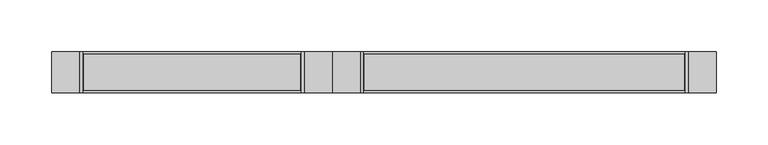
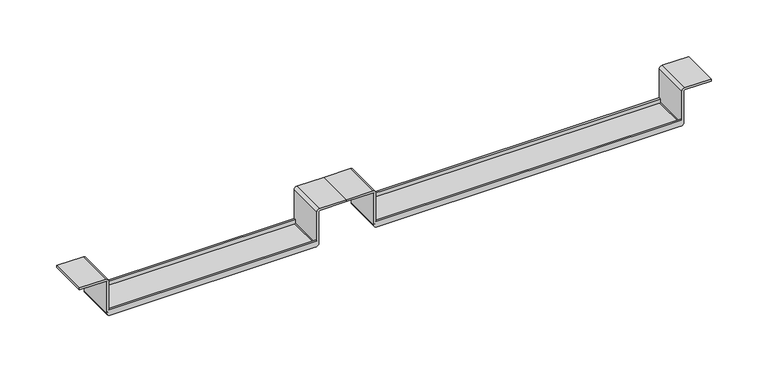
"""IFC4 building model written with IfcOpenShell, lengths in millimetres: proxy geometry, Cable_Tray_Support_SV_Basorsupport : Basorsupport SV 500."""

from ifc_helpers import new_model, si_unit, frame, origin, place, context, project, spatial, polyline, circle_curve, source, transform, mapped, element, save
from ifc_brep_helpers import plane_surface, cylinder_surface, revolved_surface, advanced_brep


def generic_models_282451d4(model_context):
    return source(origin(), model_context, "Body", "AdvancedBrep", [
        advanced_brep(
        [(-80.0, -18.0, 6.0), (-292.0, -18.0, 6.0), (-292.0, -20.0, 6.0), (-80.0, -20.0, 6.0), (-80.0, 20.0, 6.0), (-292.0, 20.0, 6.0), (-292.0, 18.0, 6.0), (-80.0, 18.0, 6.0), (-80.0, -18.0, 3.0), (-81.0, -18.0, 2.0), (-291.0, -18.0, 2.0), (-292.0, -18.0, 3.0), (-292.0, -20.0, 37.0), (-295.0, -20.0, 40.0), (-322.0, -20.0, 40.0), (-322.0, -20.0, 38.0), (-295.0, -20.0, 38.0), (-294.0, -20.0, 37.0), (-294.0, -20.0, 3.0), (-293.9672045, -20.0, 2.5576232), (-291.0, -20.0, 0.0), (-81.0, -20.0, 0.0), (-78.0, -20.0, 3.0), (-78.0, -20.0, 37.0), (-77.0, -20.0, 38.0), (-50.0, -20.0, 38.0), (-50.0, -20.0, 40.0), (-77.0, -20.0, 40.0), (-80.0, -20.0, 37.0), (-80.0, 20.0, 37.0), (-77.0, 20.0, 40.0), (-50.0, 20.0, 40.0), (-50.0, 20.0, 38.0), (-77.0, 20.0, 38.0), (-78.0, 20.0, 37.0), (-78.0, 20.0, 3.0), (-81.0, 20.0, 0.0), (-291.0, 20.0, 0.0), (-293.9672045, 20.0, 2.5576232), (-294.0, 20.0, 3.0), (-294.0, 20.0, 37.0), (-295.0, 20.0, 38.0), (-322.0, 20.0, 38.0), (-322.0, 20.0, 40.0), (-295.0, 20.0, 40.0), (-292.0, 20.0, 37.0), (-292.0, 18.0, 3.0), (-291.0, 18.0, 2.0), (-81.0, 18.0, 2.0), (-80.0, 18.0, 3.0)],
        [
            (0, 1),
            (1, 2),
            (2, 3),
            (3, 0),
            (4, 5),
            (5, 6),
            (6, 7),
            (7, 4),
            (0, 8),
            (8, 9, circle_curve(frame((-81.0, -18.0, 3.0), z_axis=(0.0, 1.0, 0.0), x_axis=(1.0, 0.0, 0.0)), 1.0)),
            (9, 10),
            (10, 11, circle_curve(frame((-291.0, -18.0, 3.0), z_axis=(0.0, 1.0, 0.0), x_axis=(1.0, 0.0, 0.0)), 1.0)),
            (11, 1),
            (2, 12),
            (12, 13, circle_curve(frame((-295.0, -20.0, 37.0), z_axis=(0.0, -1.0, 0.0), x_axis=(1.0, 0.0, 0.0)), 3.0)),
            (13, 14),
            (14, 15),
            (15, 16),
            (16, 17, circle_curve(frame((-295.0, -20.0, 37.0), z_axis=(0.0, 1.0, 0.0), x_axis=(1.0, 0.0, 0.0)), 1.0)),
            (17, 18),
            (18, 19, circle_curve(frame((-291.0, -20.0, 3.0), z_axis=(0.0, -1.0, 0.0), x_axis=(1.0, 0.0, 0.0)), 3.0)),
            (19, 20, circle_curve(frame((-291.0, -20.0, 3.0), z_axis=(0.0, -1.0, 0.0), x_axis=(1.0, 0.0, 0.0)), 3.0)),
            (20, 21),
            (21, 22, circle_curve(frame((-81.0, -20.0, 3.0), z_axis=(0.0, -1.0, 0.0), x_axis=(1.0, 0.0, 0.0)), 3.0)),
            (22, 23),
            (23, 24, circle_curve(frame((-77.0, -20.0, 37.0), z_axis=(0.0, 1.0, 0.0), x_axis=(1.0, 0.0, 0.0)), 1.0)),
            (24, 25),
            (25, 26),
            (26, 27),
            (27, 28, circle_curve(frame((-77.0, -20.0, 37.0), z_axis=(0.0, -1.0, 0.0), x_axis=(1.0, 0.0, 0.0)), 3.0)),
            (28, 3),
            (4, 29),
            (29, 30, circle_curve(frame((-77.0, 20.0, 37.0), z_axis=(0.0, 1.0, 0.0), x_axis=(1.0, 0.0, 0.0)), 3.0)),
            (30, 31),
            (31, 32),
            (32, 33),
            (33, 34, circle_curve(frame((-77.0, 20.0, 37.0), z_axis=(0.0, -1.0, 0.0), x_axis=(1.0, 0.0, 0.0)), 1.0)),
            (34, 35),
            (35, 36, circle_curve(frame((-81.0, 20.0, 3.0), z_axis=(0.0, 1.0, 0.0), x_axis=(1.0, 0.0, 0.0)), 3.0)),
            (36, 37),
            (37, 38, circle_curve(frame((-291.0, 20.0, 3.0), z_axis=(0.0, 1.0, 0.0), x_axis=(1.0, 0.0, 0.0)), 3.0)),
            (38, 39, circle_curve(frame((-291.0, 20.0, 3.0), z_axis=(0.0, 1.0, 0.0), x_axis=(1.0, 0.0, 0.0)), 3.0)),
            (39, 40),
            (40, 41, circle_curve(frame((-295.0, 20.0, 37.0), z_axis=(0.0, -1.0, 0.0), x_axis=(1.0, 0.0, 0.0)), 1.0)),
            (41, 42),
            (42, 43),
            (43, 44),
            (44, 45, circle_curve(frame((-295.0, 20.0, 37.0), z_axis=(0.0, 1.0, 0.0), x_axis=(1.0, 0.0, 0.0)), 3.0)),
            (45, 5),
            (6, 46),
            (46, 47, circle_curve(frame((-291.0, 18.0, 3.0), z_axis=(0.0, -1.0, 0.0), x_axis=(1.0, 0.0, 0.0)), 1.0)),
            (47, 48),
            (48, 49, circle_curve(frame((-81.0, 18.0, 3.0), z_axis=(0.0, -1.0, 0.0), x_axis=(1.0, 0.0, 0.0)), 1.0)),
            (49, 7),
            (9, 48),
            (47, 10),
            (28, 29),
            (49, 8),
            (26, 31),
            (30, 27),
            (25, 32),
            (24, 33),
            (22, 35),
            (34, 23),
            (20, 37),
            (36, 21),
            (17, 40),
            (39, 18),
            (15, 42),
            (41, 16),
            (14, 43),
            (13, 44),
            (45, 12),
            (11, 46),
        ],
        [
            plane_surface(frame((-80.0, -20.0, 6.0), z_axis=(0.0, 0.0, 1.0), x_axis=(0.0, 1.0, 0.0))),
            plane_surface(frame((-80.0, -18.0, 6.0), z_axis=(0.0, 1.0, 0.0), x_axis=(0.0, 0.0, -1.0))),
            plane_surface(frame((-292.0, -20.0, 6.0), z_axis=(0.0, -1.0, 0.0), x_axis=(0.0, 0.0, -1.0))),
            plane_surface(frame((-80.0, 20.0, 6.0), z_axis=(0.0, 1.0, 0.0), x_axis=(0.0, 0.0, -1.0))),
            plane_surface(frame((-292.0, 18.0, 6.0), z_axis=(0.0, -1.0, 0.0), x_axis=(0.0, 0.0, -1.0))),
            plane_surface(frame((-81.0, -20.0, 2.0), z_axis=(0.0, 0.0, 1.0), x_axis=(0.0, 1.0, 0.0))),
            plane_surface(frame((-80.0, -20.0, 37.0), z_axis=(-1.0, 0.0, -1.8865575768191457e-12), x_axis=(0.0, 1.0, 0.0))),
            plane_surface(frame((-50.0, -20.0, 40.0), z_axis=(0.0, 0.0, 1.0), x_axis=(0.0, 1.0, 0.0))),
            plane_surface(frame((-50.0, -20.0, 38.0), z_axis=(1.0, 0.0, 0.0), x_axis=(0.0, 1.0, 0.0))),
            plane_surface(frame((-77.0, -20.0, 38.0), z_axis=(0.0, 0.0, -1.0), x_axis=(0.0, 1.0, 0.0))),
            plane_surface(frame((-78.0, -20.0, 3.0), z_axis=(1.0, 0.0, 0.0), x_axis=(0.0, 1.0, 0.0))),
            plane_surface(frame((-291.0, -20.0, 0.0), z_axis=(0.0, 0.0, -1.0), x_axis=(0.0, 1.0, 0.0))),
            plane_surface(frame((-294.0, -20.0, 37.0), z_axis=(-1.0, 0.0, 0.0), x_axis=(0.0, 1.0, 0.0))),
            plane_surface(frame((-322.0, -20.0, 38.0), z_axis=(0.0, 0.0, -1.0), x_axis=(0.0, 1.0, 0.0))),
            plane_surface(frame((-322.0, -20.0, 40.0), z_axis=(-1.0, 0.0, 0.0), x_axis=(0.0, 1.0, 0.0))),
            plane_surface(frame((-295.0, -20.0, 40.0), z_axis=(0.0, 0.0, 1.0), x_axis=(0.0, 1.0, 0.0))),
            plane_surface(frame((-292.0, -20.0, 3.0), z_axis=(1.0, 0.0, 0.0), x_axis=(0.0, 1.0, 0.0))),
            cylinder_surface(frame((-295.0, 20.0, 37.0), z_axis=(0.0, -1.0, 0.0), x_axis=(1.0, 0.0, 0.0)), 3.0),
            revolved_surface(polyline([(-294.0, 20.0, 37.0), (-294.0, -20.0, 37.0)]), (-295.0, 20.0, 37.0), (0.0, 1.0, 0.0)),
            cylinder_surface(frame((-291.0, 20.0, 3.0), z_axis=(0.0, -1.0, 0.0), x_axis=(1.0, 0.0, 0.0)), 3.0),
            cylinder_surface(frame((-81.0, 20.0, 3.0), z_axis=(0.0, -1.0, 0.0), x_axis=(1.0, 0.0, 0.0)), 3.0),
            revolved_surface(polyline([(-76.0, 20.0, 37.0), (-76.0, -20.0, 37.0)]), (-77.0, 20.0, 37.0), (0.0, 1.0, 0.0)),
            cylinder_surface(frame((-77.0, 20.0, 37.0), z_axis=(0.0, -1.0, 0.0), x_axis=(1.0, 0.0, 0.0)), 3.0),
            revolved_surface(polyline([(-80.0, 18.0, 3.0), (-80.0, -18.0, 3.0)]), (-81.0, 20.0, 3.0), (0.0, 1.0, 0.0)),
            revolved_surface(polyline([(-290.0, 18.0, 3.0), (-290.0, -18.0, 3.0)]), (-291.0, 20.0, 3.0), (0.0, 1.0, 0.0)),
        ],
        [
            (0, [[1, 2, 3, 4]]),
            (0, [[5, 6, 7, 8]]),
            (1, [[-1, 9, 10, 11, 12, 13]]),
            (2, [[-3, 14, 15, 16, 17, 18, 19, 20, 21, 22, 23, 24, 25, 26, 27, 28, 29, 30, 31]]),
            (3, [[-5, 32, 33, 34, 35, 36, 37, 38, 39, 40, 41, 42, 43, 44, 45, 46, 47, 48, 49]]),
            (4, [[-7, 50, 51, 52, 53, 54]]),
            (5, [[55, -52, 56, -11]]),
            (6, [[57, -32, -8, -54, 58, -9, -4, -31]]),
            (7, [[-29, 59, -34, 60]]),
            (8, [[-28, 61, -35, -59]]),
            (9, [[-27, 62, -36, -61]]),
            (10, [[-25, 63, -38, 64]]),
            (11, [[-23, 65, -40, 66]]),
            (12, [[-20, 67, -43, 68]]),
            (13, [[-18, 69, -45, 70]]),
            (14, [[-17, 71, -46, -69]]),
            (15, [[-16, 72, -47, -71]]),
            (16, [[73, -14, -2, -13, 74, -50, -6, -49]]),
            (17, [[-15, -73, -48, -72]]),
            (18, [[-19, -70, -44, -67]]),
            (19, [[-22, -21, -68, -42, -41, -65]]),
            (20, [[-24, -66, -39, -63]]),
            (21, [[-26, -64, -37, -62]]),
            (22, [[-30, -60, -33, -57]]),
            (23, [[-55, -10, -58, -53]]),
            (24, [[-56, -51, -74, -12]]),
        ],
    ),
        advanced_brep(
        [(292.0, -18.0, 6.0), (-20.0, -18.0, 6.0), (-20.0, -20.0, 6.0), (292.0, -20.0, 6.0), (292.0, 20.0, 6.0), (-20.0, 20.0, 6.0), (-20.0, 18.0, 6.0), (292.0, 18.0, 6.0), (292.0, -18.0, 3.0), (291.0, -18.0, 2.0), (-19.0, -18.0, 2.0), (-20.0, -18.0, 3.0), (-20.0, -20.0, 37.0), (-23.0, -20.0, 40.0), (-50.0, -20.0, 40.0), (-50.0, -20.0, 38.0), (-23.0, -20.0, 38.0), (-22.0, -20.0, 37.0), (-22.0, -20.0, 3.0), (-21.9672045, -20.0, 2.5576232), (-19.0, -20.0, 0.0), (291.0, -20.0, 0.0), (294.0, -20.0, 3.0), (294.0, -20.0, 37.0), (295.0, -20.0, 38.0), (322.0, -20.0, 38.0), (322.0, -20.0, 40.0), (295.0, -20.0, 40.0), (292.0, -20.0, 37.0), (292.0, 20.0, 37.0), (295.0, 20.0, 40.0), (322.0, 20.0, 40.0), (322.0, 20.0, 38.0), (295.0, 20.0, 38.0), (294.0, 20.0, 37.0), (294.0, 20.0, 3.0), (291.0, 20.0, 0.0), (-19.0, 20.0, 0.0), (-21.9672045, 20.0, 2.5576232), (-22.0, 20.0, 3.0), (-22.0, 20.0, 37.0), (-23.0, 20.0, 38.0), (-50.0, 20.0, 38.0), (-50.0, 20.0, 40.0), (-23.0, 20.0, 40.0), (-20.0, 20.0, 37.0), (-20.0, 18.0, 3.0), (-19.0, 18.0, 2.0), (291.0, 18.0, 2.0), (292.0, 18.0, 3.0)],
        [
            (0, 1),
            (1, 2),
            (2, 3),
            (3, 0),
            (4, 5),
            (5, 6),
            (6, 7),
            (7, 4),
            (0, 8),
            (8, 9, circle_curve(frame((291.0, -18.0, 3.0), z_axis=(0.0, 1.0, 0.0), x_axis=(1.0, 0.0, 0.0)), 1.0)),
            (9, 10),
            (10, 11, circle_curve(frame((-19.0, -18.0, 3.0), z_axis=(0.0, 1.0, 0.0), x_axis=(1.0, 0.0, 0.0)), 1.0)),
            (11, 1),
            (2, 12),
            (12, 13, circle_curve(frame((-23.0, -20.0, 37.0), z_axis=(0.0, -1.0, 0.0), x_axis=(1.0, 0.0, 0.0)), 3.0)),
            (13, 14),
            (14, 15),
            (15, 16),
            (16, 17, circle_curve(frame((-23.0, -20.0, 37.0), z_axis=(0.0, 1.0, 0.0), x_axis=(1.0, 0.0, 0.0)), 1.0)),
            (17, 18),
            (18, 19, circle_curve(frame((-19.0, -20.0, 3.0), z_axis=(0.0, -1.0, 0.0), x_axis=(1.0, 0.0, 0.0)), 3.0)),
            (19, 20, circle_curve(frame((-19.0, -20.0, 3.0), z_axis=(0.0, -1.0, 0.0), x_axis=(1.0, 0.0, 0.0)), 3.0)),
            (20, 21),
            (21, 22, circle_curve(frame((291.0, -20.0, 3.0), z_axis=(0.0, -1.0, 0.0), x_axis=(1.0, 0.0, 0.0)), 3.0)),
            (22, 23),
            (23, 24, circle_curve(frame((295.0, -20.0, 37.0), z_axis=(0.0, 1.0, 0.0), x_axis=(1.0, 0.0, 0.0)), 1.0)),
            (24, 25),
            (25, 26),
            (26, 27),
            (27, 28, circle_curve(frame((295.0, -20.0, 37.0), z_axis=(0.0, -1.0, 0.0), x_axis=(1.0, 0.0, 0.0)), 3.0)),
            (28, 3),
            (4, 29),
            (29, 30, circle_curve(frame((295.0, 20.0, 37.0), z_axis=(0.0, 1.0, 0.0), x_axis=(1.0, 0.0, 0.0)), 3.0)),
            (30, 31),
            (31, 32),
            (32, 33),
            (33, 34, circle_curve(frame((295.0, 20.0, 37.0), z_axis=(0.0, -1.0, 0.0), x_axis=(1.0, 0.0, 0.0)), 1.0)),
            (34, 35),
            (35, 36, circle_curve(frame((291.0, 20.0, 3.0), z_axis=(0.0, 1.0, 0.0), x_axis=(1.0, 0.0, 0.0)), 3.0)),
            (36, 37),
            (37, 38, circle_curve(frame((-19.0, 20.0, 3.0), z_axis=(0.0, 1.0, 0.0), x_axis=(1.0, 0.0, 0.0)), 3.0)),
            (38, 39, circle_curve(frame((-19.0, 20.0, 3.0), z_axis=(0.0, 1.0, 0.0), x_axis=(1.0, 0.0, 0.0)), 3.0)),
            (39, 40),
            (40, 41, circle_curve(frame((-23.0, 20.0, 37.0), z_axis=(0.0, -1.0, 0.0), x_axis=(1.0, 0.0, 0.0)), 1.0)),
            (41, 42),
            (42, 43),
            (43, 44),
            (44, 45, circle_curve(frame((-23.0, 20.0, 37.0), z_axis=(0.0, 1.0, 0.0), x_axis=(1.0, 0.0, 0.0)), 3.0)),
            (45, 5),
            (6, 46),
            (46, 47, circle_curve(frame((-19.0, 18.0, 3.0), z_axis=(0.0, -1.0, 0.0), x_axis=(1.0, 0.0, 0.0)), 1.0)),
            (47, 48),
            (48, 49, circle_curve(frame((291.0, 18.0, 3.0), z_axis=(0.0, -1.0, 0.0), x_axis=(1.0, 0.0, 0.0)), 1.0)),
            (49, 7),
            (9, 48),
            (47, 10),
            (28, 29),
            (49, 8),
            (26, 31),
            (30, 27),
            (25, 32),
            (24, 33),
            (22, 35),
            (34, 23),
            (20, 37),
            (36, 21),
            (17, 40),
            (39, 18),
            (15, 42),
            (41, 16),
            (14, 43),
            (13, 44),
            (45, 12),
            (11, 46),
        ],
        [
            plane_surface(frame((292.0, -20.0, 6.0), z_axis=(0.0, 0.0, 1.0), x_axis=(0.0, 1.0, 0.0))),
            plane_surface(frame((292.0, -18.0, 6.0), z_axis=(0.0, 1.0, 0.0), x_axis=(0.0, 0.0, -1.0))),
            plane_surface(frame((-20.0, -20.0, 6.0), z_axis=(0.0, -1.0, 0.0), x_axis=(0.0, 0.0, -1.0))),
            plane_surface(frame((292.0, 20.0, 6.0), z_axis=(0.0, 1.0, 0.0), x_axis=(0.0, 0.0, -1.0))),
            plane_surface(frame((-20.0, 18.0, 6.0), z_axis=(0.0, -1.0, 0.0), x_axis=(0.0, 0.0, -1.0))),
            plane_surface(frame((291.0, -20.0, 2.0), z_axis=(0.0, 0.0, 1.0), x_axis=(0.0, 1.0, 0.0))),
            plane_surface(frame((292.0, -20.0, 37.0), z_axis=(-1.0, 0.0, -1.887055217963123e-12), x_axis=(0.0, 1.0, 0.0))),
            plane_surface(frame((322.0, -20.0, 40.0), z_axis=(0.0, 0.0, 1.0), x_axis=(0.0, 1.0, 0.0))),
            plane_surface(frame((322.0, -20.0, 38.0), z_axis=(1.0, 0.0, 0.0), x_axis=(0.0, 1.0, 0.0))),
            plane_surface(frame((295.0, -20.0, 38.0), z_axis=(0.0, 0.0, -1.0), x_axis=(0.0, 1.0, 0.0))),
            plane_surface(frame((294.0, -20.0, 3.0), z_axis=(1.0, 0.0, 0.0), x_axis=(0.0, 1.0, 0.0))),
            plane_surface(frame((-19.0, -20.0, 0.0), z_axis=(0.0, 0.0, -1.0), x_axis=(0.0, 1.0, 0.0))),
            plane_surface(frame((-22.0, -20.0, 37.0), z_axis=(-1.0, 0.0, 0.0), x_axis=(0.0, 1.0, 0.0))),
            plane_surface(frame((-50.0, -20.0, 38.0), z_axis=(0.0, 0.0, -1.0), x_axis=(0.0, 1.0, 0.0))),
            plane_surface(frame((-50.0, -20.0, 40.0), z_axis=(-1.0, 0.0, 0.0), x_axis=(0.0, 1.0, 0.0))),
            plane_surface(frame((-23.0, -20.0, 40.0), z_axis=(0.0, 0.0, 1.0), x_axis=(0.0, 1.0, 0.0))),
            plane_surface(frame((-20.0, -20.0, 3.0), z_axis=(1.0, 0.0, 0.0), x_axis=(0.0, 1.0, 0.0))),
            cylinder_surface(frame((-23.0, 20.0, 37.0), z_axis=(0.0, -1.0, 0.0), x_axis=(1.0, 0.0, 0.0)), 3.0),
            revolved_surface(polyline([(-22.0, 20.0, 37.0), (-22.0, -20.0, 37.0)]), (-23.0, 20.0, 37.0), (0.0, 1.0, 0.0)),
            cylinder_surface(frame((-19.0, 20.0, 3.0), z_axis=(0.0, -1.0, 0.0), x_axis=(1.0, 0.0, 0.0)), 3.0),
            cylinder_surface(frame((291.0, 20.0, 3.0), z_axis=(0.0, -1.0, 0.0), x_axis=(1.0, 0.0, 0.0)), 3.0),
            revolved_surface(polyline([(296.0, 20.0, 37.0), (296.0, -20.0, 37.0)]), (295.0, 20.0, 37.0), (0.0, 1.0, 0.0)),
            cylinder_surface(frame((295.0, 20.0, 37.0), z_axis=(0.0, -1.0, 0.0), x_axis=(1.0, 0.0, 0.0)), 3.0),
            revolved_surface(polyline([(292.0, 18.0, 3.0), (292.0, -18.0, 3.0)]), (291.0, 20.0, 3.0), (0.0, 1.0, 0.0)),
            revolved_surface(polyline([(-18.0, 18.0, 3.0), (-18.0, -18.0, 3.0)]), (-19.0, 20.0, 3.0), (0.0, 1.0, 0.0)),
        ],
        [
            (0, [[1, 2, 3, 4]]),
            (0, [[5, 6, 7, 8]]),
            (1, [[-1, 9, 10, 11, 12, 13]]),
            (2, [[-3, 14, 15, 16, 17, 18, 19, 20, 21, 22, 23, 24, 25, 26, 27, 28, 29, 30, 31]]),
            (3, [[-5, 32, 33, 34, 35, 36, 37, 38, 39, 40, 41, 42, 43, 44, 45, 46, 47, 48, 49]]),
            (4, [[-7, 50, 51, 52, 53, 54]]),
            (5, [[55, -52, 56, -11]]),
            (6, [[57, -32, -8, -54, 58, -9, -4, -31]]),
            (7, [[-29, 59, -34, 60]]),
            (8, [[-28, 61, -35, -59]]),
            (9, [[-27, 62, -36, -61]]),
            (10, [[-25, 63, -38, 64]]),
            (11, [[-23, 65, -40, 66]]),
            (12, [[-20, 67, -43, 68]]),
            (13, [[-18, 69, -45, 70]]),
            (14, [[-17, 71, -46, -69]]),
            (15, [[-16, 72, -47, -71]]),
            (16, [[73, -14, -2, -13, 74, -50, -6, -49]]),
            (17, [[-15, -73, -48, -72]]),
            (18, [[-19, -70, -44, -67]]),
            (19, [[-22, -21, -68, -42, -41, -65]]),
            (20, [[-24, -66, -39, -63]]),
            (21, [[-26, -64, -37, -62]]),
            (22, [[-30, -60, -33, -57]]),
            (23, [[-55, -10, -58, -53]]),
            (24, [[-56, -51, -74, -12]]),
        ],
    ),
    ])


if __name__ == "__main__":
    model = new_model("IFC4")
    model_context = context("Model", 3, world=origin())
    ifc_project = project(units=[si_unit("LENGTHUNIT", "METRE", prefix="MILLI")], contexts=[model_context])
    site = spatial("IfcSite", under=ifc_project)
    building = spatial("IfcBuilding", under=site)
    placement = place(None, origin())
    generic_models_shape = generic_models_282451d4(model_context)
    element("IfcBuildingElementProxy", 1, Name="Cable_Tray_Support_SV_Basorsupport : Basorsupport SV 500", ObjectType="Cable_Tray_Support_SV_Basorsupport : Basorsupport SV 500", at=placement, inside=building, context=model_context, shape_type="MappedRepresentation", body=[
        mapped(generic_models_shape, transform((0.0, 0.0, 0.0), x_axis=(1.0, 0.0, 0.0), y_axis=(0.0, 1.0, 0.0), z_axis=(0.0, 0.0, 1.0))),
    ])
    save(model, "model.ifc")
